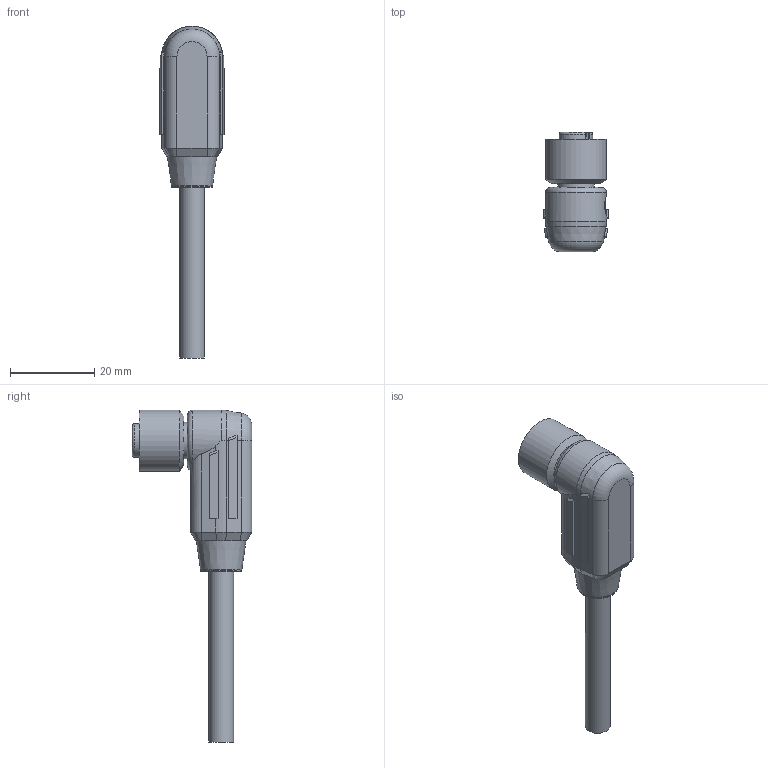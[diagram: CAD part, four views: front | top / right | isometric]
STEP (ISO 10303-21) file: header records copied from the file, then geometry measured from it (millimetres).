
FILE_DESCRIPTION( ( 'Unknown' ), '1' );
FILE_NAME( 'C:/Users/txr10011/Documents/1_in Bearbeitung/151125/RKWTS 4/RKWTS_4.stp', 'Unknown', ( 'Unknown' ), ( 'Unknown' ), 'PSStep 17.0.49', 'Unknown', ' ' );
FILE_SCHEMA( ( 'AUTOMOTIVE_DESIGN { 1 0 10303 214 1 1 1 1 }' ) );
Length unit declared in the file: millimetre
Products named in the file (2): 2
Bounding box: 15.5 x 28.35 x 78.75 mm (x, y, z)
Volume: 8816.2 mm3; surface area: 4661.1 mm2
Topology: 2 solids, 2 shells, 154 faces, 377 edges, 244 vertices
Faces by surface type: plane 93, cylinder 29, cone 19, torus 8, extrusion 4, sphere 1
Full cylindrical faces by diameter (mm): 1.1 x4, 2 x1, 5 x1, 5.85 x1, 7.5 x1, 8.6 x2, 8.796 x1, 9.634 x1, 9.904 x1, 11.05 x1, 12.2 x1, 14.5 x1
Entity records: 5925 total; most frequent: CARTESIAN_POINT 1177, DIRECTION 731, ORIENTED_EDGE 664, EDGE_CURVE 332, AXIS2_PLACEMENT_3D 263, VERTEX_POINT 233, EDGE_LOOP 206, VECTOR 205
